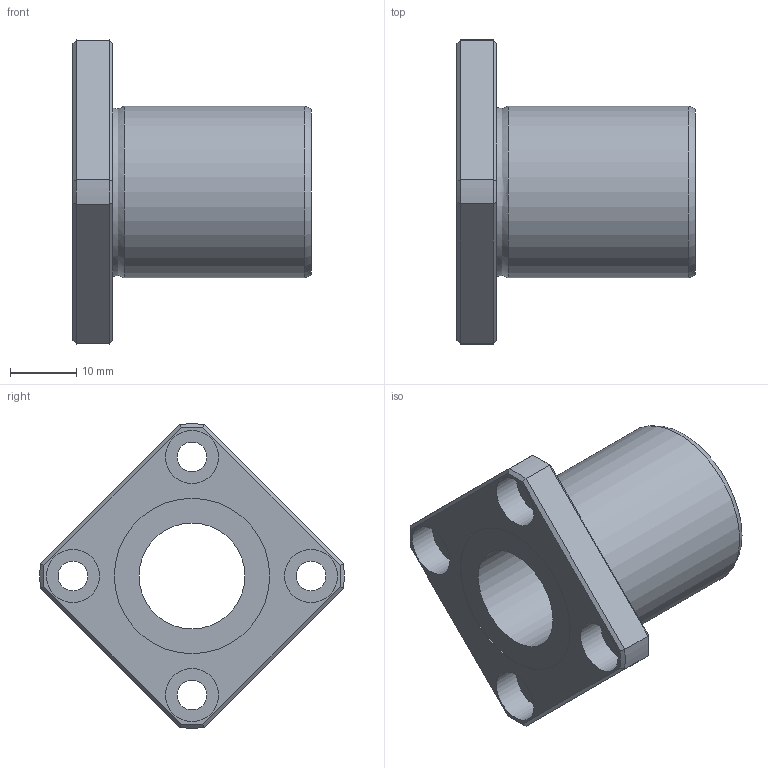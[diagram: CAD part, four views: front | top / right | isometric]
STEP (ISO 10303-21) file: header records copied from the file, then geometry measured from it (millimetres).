
FILE_DESCRIPTION((''),'2;1');
FILE_NAME('D:\製品 (図面)\カタログ用3D\リニアベアリング関連\STEP形式\LFK\LFK16.stp','2010-06-04T08:48:35',('Tsuchiya'),(''),'Autodesk Inventor 10','Autodesk Inventor 10','');
FILE_SCHEMA(('AUTOMOTIVE_DESIGN { 1 0 10303 214 1 1 1 1 }'));
Length unit declared in the file: millimetre
Products named in the file (1): LFK16
Bounding box: 36 x 45.98 x 45.98 mm (x, y, z)
Volume: 14852.2 mm3; surface area: 7407.3 mm2
Topology: 1 solids, 1 shells, 47 faces, 96 edges, 58 vertices
Faces by surface type: plane 21, cylinder 16, cone 8, torus 1, bspline 1
Full cylindrical faces by diameter (mm): 4.5 x4, 8 x4, 16 x1, 23.5 x2, 26 x1
Entity records: 1275 total; most frequent: CARTESIAN_POINT 298, DIRECTION 202, ORIENTED_EDGE 164, AXIS2_PLACEMENT_3D 89, EDGE_CURVE 82, EDGE_LOOP 78, VERTEX_POINT 58, FACE_OUTER_BOUND 47
